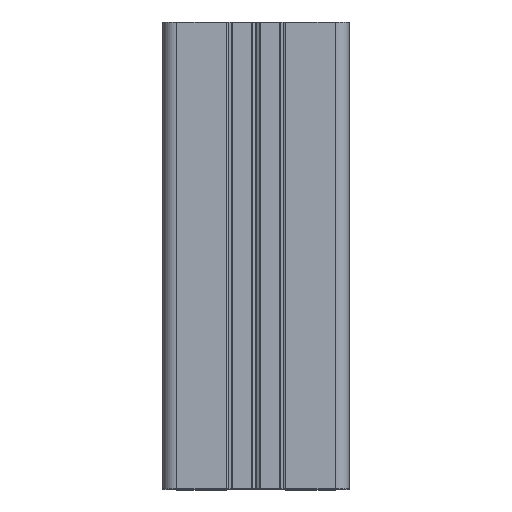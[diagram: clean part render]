
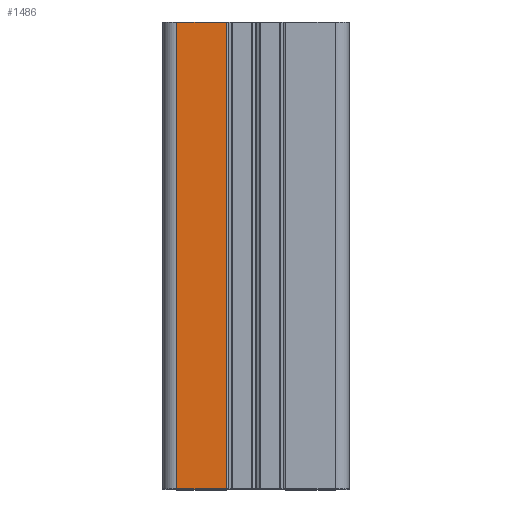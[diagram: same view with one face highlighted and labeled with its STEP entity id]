
A CAD part, top view. The second image highlights one B-rep face of the part: STEP entity #1486.
In plain terms, the highlighted planar face has unit normal (0, 0, 1).
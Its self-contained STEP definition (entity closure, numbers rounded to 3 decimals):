
#1486 = ADVANCED_FACE( '', ( #3214 ), #3215, .T. );
#3214 = FACE_OUTER_BOUND( '', #5181, .T. );
#3215 = PLANE( '', #5182 );
#5181 = EDGE_LOOP( '', ( #9811, #9812, #9813, #9814 ) );
#5182 = AXIS2_PLACEMENT_3D( '', #9815, #9816, #9817 );
#9811 = ORIENTED_EDGE( '', *, *, #13001, .F. );
#9812 = ORIENTED_EDGE( '', *, *, #14375, .F. );
#9813 = ORIENTED_EDGE( '', *, *, #14376, .T. );
#9814 = ORIENTED_EDGE( '', *, *, #14377, .T. );
#9815 = CARTESIAN_POINT( '', ( -6.3, 100., 80. ) );
#9816 = DIRECTION( '', ( 0., 0., 1. ) );
#9817 = DIRECTION( '', ( 1., 0., 0. ) );
#13001 = EDGE_CURVE( '', #16067, #16068, #16069, .T. );
#14375 = EDGE_CURVE( '', #18158, #16067, #18159, .T. );
#14376 = EDGE_CURVE( '', #18158, #18160, #18161, .T. );
#14377 = EDGE_CURVE( '', #18160, #16068, #18162, .T. );
#16067 = VERTEX_POINT( '', #20312 );
#16068 = VERTEX_POINT( '', #20313 );
#16069 = LINE( '', #20314, #20315 );
#18158 = VERTEX_POINT( '', #23160 );
#18159 = LINE( '', #23161, #23162 );
#18160 = VERTEX_POINT( '', #23163 );
#18161 = LINE( '', #23164, #23165 );
#18162 = LINE( '', #23166, #23167 );
#20312 = CARTESIAN_POINT( '', ( -6.3, 0., 80. ) );
#20313 = CARTESIAN_POINT( '', ( -17., 0., 80. ) );
#20314 = CARTESIAN_POINT( '', ( -6.3, 0., 80. ) );
#20315 = VECTOR( '', #24842, 1000. );
#23160 = CARTESIAN_POINT( '', ( -6.3, 100., 80. ) );
#23161 = CARTESIAN_POINT( '', ( -6.3, 100., 80. ) );
#23162 = VECTOR( '', #26568, 1000. );
#23163 = CARTESIAN_POINT( '', ( -17., 100., 80. ) );
#23164 = CARTESIAN_POINT( '', ( -6.3, 100., 80. ) );
#23165 = VECTOR( '', #26569, 1000. );
#23166 = CARTESIAN_POINT( '', ( -17., 100., 80. ) );
#23167 = VECTOR( '', #26570, 1000. );
#24842 = DIRECTION( '', ( -1., 0., 0. ) );
#26568 = DIRECTION( '', ( 0., -1., 0. ) );
#26569 = DIRECTION( '', ( -1., 0., 0. ) );
#26570 = DIRECTION( '', ( 0., -1., 0. ) );
